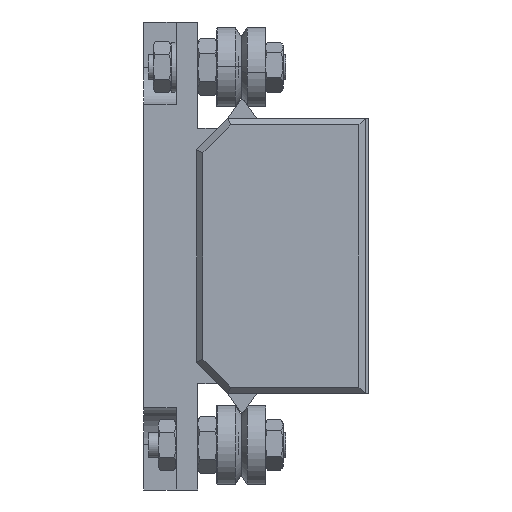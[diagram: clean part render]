
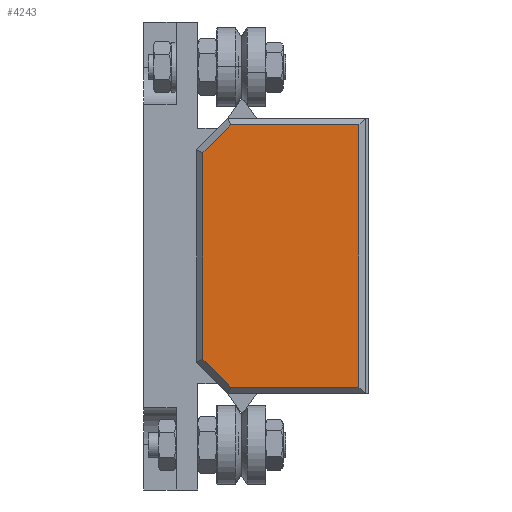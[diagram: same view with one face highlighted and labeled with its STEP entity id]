
A CAD part, left-side view. The second image highlights one B-rep face of the part: STEP entity #4243.
In plain terms, the highlighted planar face has unit normal (-1, 0, 0) as drawn and (0, 0, 1) by its records, which use the part's own axes.
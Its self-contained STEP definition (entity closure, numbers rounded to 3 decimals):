
#3 = DIRECTION ( 'NONE',  ( -0.707, 0.707, 0. ) ) ;
#508 = PLANE ( 'NONE',  #4533 ) ;
#776 = ORIENTED_EDGE ( 'NONE', *, *, #6626, .T. ) ;
#781 = DIRECTION ( 'NONE',  ( 0., 0., -1. ) ) ;
#998 = ORIENTED_EDGE ( 'NONE', *, *, #9154, .T. ) ;
#1451 = CARTESIAN_POINT ( 'NONE',  ( 21., 1., 6. ) ) ;
#1667 = VECTOR ( 'NONE', #3, 1000. ) ;
#2139 = ORIENTED_EDGE ( 'NONE', *, *, #7643, .T. ) ;
#2503 = LINE ( 'NONE', #10132, #12095 ) ;
#2832 = DIRECTION ( 'NONE',  ( 0., 1., 0. ) ) ;
#3168 = VERTEX_POINT ( 'NONE', #1451 ) ;
#3596 = VERTEX_POINT ( 'NONE', #9489 ) ;
#4017 = CARTESIAN_POINT ( 'NONE',  ( 21., 0., 6. ) ) ;
#4243 = ADVANCED_FACE ( 'NONE', ( #4914 ), #508, .F. ) ;
#4393 = EDGE_CURVE ( 'NONE', #6481, #10436, #6168, .T. ) ;
#4470 = CARTESIAN_POINT ( 'NONE',  ( 0., 26., 6. ) ) ;
#4533 = AXIS2_PLACEMENT_3D ( 'NONE', #8141, #781, #12396 ) ;
#4914 = FACE_OUTER_BOUND ( 'NONE', #8602, .T. ) ;
#5694 = VECTOR ( 'NONE', #13236, 1000. ) ;
#6168 = LINE ( 'NONE', #10572, #10534 ) ;
#6451 = VECTOR ( 'NONE', #8733, 1000. ) ;
#6481 = VERTEX_POINT ( 'NONE', #8558 ) ;
#6510 = VECTOR ( 'NONE', #2832, 1000. ) ;
#6626 = EDGE_CURVE ( 'NONE', #3596, #10259, #8755, .T. ) ;
#6784 = DIRECTION ( 'NONE',  ( 0., -1., 0. ) ) ;
#7110 = CARTESIAN_POINT ( 'NONE',  ( 16.586, 26., 6. ) ) ;
#7142 = EDGE_CURVE ( 'NONE', #10436, #11318, #2503, .T. ) ;
#7643 = EDGE_CURVE ( 'NONE', #3168, #3596, #11349, .T. ) ;
#8141 = CARTESIAN_POINT ( 'NONE',  ( 0., 0., 6. ) ) ;
#8351 = LINE ( 'NONE', #12602, #5694 ) ;
#8558 = CARTESIAN_POINT ( 'NONE',  ( -16.586, 26., 6. ) ) ;
#8580 = CARTESIAN_POINT ( 'NONE',  ( -21., 21.586, 6. ) ) ;
#8602 = EDGE_LOOP ( 'NONE', ( #12120, #998, #2139, #776, #12530, #12023 ) ) ;
#8733 = DIRECTION ( 'NONE',  ( -1., 0., 0. ) ) ;
#8755 = LINE ( 'NONE', #11963, #1667 ) ;
#9154 = EDGE_CURVE ( 'NONE', #11318, #3168, #8351, .T. ) ;
#9489 = CARTESIAN_POINT ( 'NONE',  ( 21., 21.586, 6. ) ) ;
#10132 = CARTESIAN_POINT ( 'NONE',  ( -21., 0., 6. ) ) ;
#10259 = VERTEX_POINT ( 'NONE', #7110 ) ;
#10436 = VERTEX_POINT ( 'NONE', #8580 ) ;
#10534 = VECTOR ( 'NONE', #10642, 1000. ) ;
#10572 = CARTESIAN_POINT ( 'NONE',  ( -21.293, 21.293, 6. ) ) ;
#10629 = LINE ( 'NONE', #4470, #6451 ) ;
#10642 = DIRECTION ( 'NONE',  ( -0.707, -0.707, 0. ) ) ;
#11318 = VERTEX_POINT ( 'NONE', #12015 ) ;
#11349 = LINE ( 'NONE', #4017, #6510 ) ;
#11963 = CARTESIAN_POINT ( 'NONE',  ( 16.293, 26.293, 6. ) ) ;
#12015 = CARTESIAN_POINT ( 'NONE',  ( -21., 1., 6. ) ) ;
#12023 = ORIENTED_EDGE ( 'NONE', *, *, #4393, .T. ) ;
#12095 = VECTOR ( 'NONE', #6784, 1000. ) ;
#12120 = ORIENTED_EDGE ( 'NONE', *, *, #7142, .T. ) ;
#12396 = DIRECTION ( 'NONE',  ( -1., 0., 0. ) ) ;
#12530 = ORIENTED_EDGE ( 'NONE', *, *, #13373, .T. ) ;
#12602 = CARTESIAN_POINT ( 'NONE',  ( 0., 1., 6. ) ) ;
#13236 = DIRECTION ( 'NONE',  ( 1., 0., 0. ) ) ;
#13373 = EDGE_CURVE ( 'NONE', #10259, #6481, #10629, .T. ) ;
